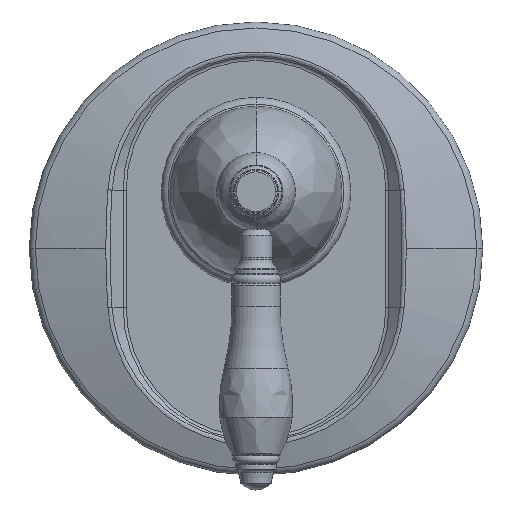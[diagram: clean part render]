
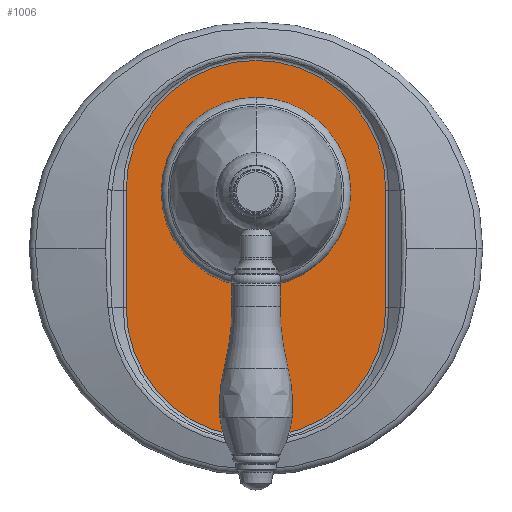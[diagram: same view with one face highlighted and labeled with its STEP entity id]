
A CAD part, top view. The second image highlights one B-rep face of the part: STEP entity #1006.
In plain terms, the highlighted planar face has unit normal (0, 0, 1).
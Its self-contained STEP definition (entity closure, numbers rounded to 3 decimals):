
#421=DIRECTION('',(0.,-1.,0.));
#422=VECTOR('',#421,40.);
#423=CARTESIAN_POINT('',(-44.379,20.,8.5));
#424=LINE('',#423,#422);
#425=CARTESIAN_POINT('',(0.,20.,8.5));
#426=DIRECTION('',(0.,0.,1.));
#427=DIRECTION('',(1.,0.,0.));
#428=AXIS2_PLACEMENT_3D('',#425,#426,#427);
#430=DIRECTION('',(0.,1.,0.));
#431=VECTOR('',#430,40.);
#432=CARTESIAN_POINT('',(44.379,-20.,8.5));
#433=LINE('',#432,#431);
#434=CARTESIAN_POINT('',(0.,-20.,8.5));
#435=DIRECTION('',(0.,0.,1.));
#436=DIRECTION('',(-1.,0.,0.));
#437=AXIS2_PLACEMENT_3D('',#434,#435,#436);
#465=CARTESIAN_POINT('',(-44.379,20.,8.5));
#466=CARTESIAN_POINT('',(-44.379,-20.,8.5));
#467=VERTEX_POINT('',#465);
#468=VERTEX_POINT('',#466);
#471=CARTESIAN_POINT('',(44.379,-20.,8.5));
#472=VERTEX_POINT('',#471);
#475=CARTESIAN_POINT('',(44.379,20.,8.5));
#476=VERTEX_POINT('',#475);
#995=CARTESIAN_POINT('',(-45.,20.,8.5));
#996=DIRECTION('',(0.,0.,-1.));
#997=DIRECTION('',(1.,0.,0.));
#998=AXIS2_PLACEMENT_3D('',#995,#996,#997);
#999=PLANE('',#998);
#1000=ORIENTED_EDGE('',*,*,#949,.F.);
#1001=ORIENTED_EDGE('',*,*,#963,.F.);
#1002=ORIENTED_EDGE('',*,*,#977,.F.);
#1003=ORIENTED_EDGE('',*,*,#934,.F.);
#1004=EDGE_LOOP('',(#1000,#1001,#1002,#1003));
#1005=FACE_OUTER_BOUND('',#1004,.F.);
#1006=ADVANCED_FACE('',(#1005),#999,.F.);
#429=CIRCLE('',#428,44.379);
#438=CIRCLE('',#437,44.379);
#934=EDGE_CURVE('',#468,#472,#438,.T.);
#949=EDGE_CURVE('',#467,#468,#424,.T.);
#963=EDGE_CURVE('',#476,#467,#429,.T.);
#977=EDGE_CURVE('',#472,#476,#433,.T.);
